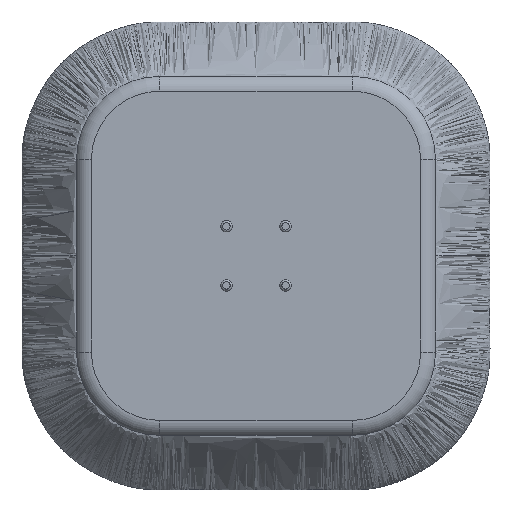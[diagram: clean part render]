
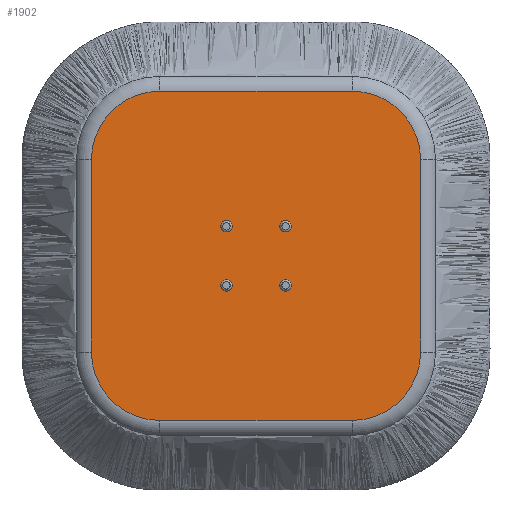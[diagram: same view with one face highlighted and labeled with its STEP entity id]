
A CAD part, top view. The second image highlights one B-rep face of the part: STEP entity #1902.
In plain terms, the highlighted planar face has unit normal (0, 0, 1).
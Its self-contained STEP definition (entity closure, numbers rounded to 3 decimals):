
#124=PLANE('',#2203);
#281=FACE_OUTER_BOUND('',#412,.T.);
#412=EDGE_LOOP('',(#1680,#1681,#1682,#1683,#1684,#1685,#1686,#1687));
#517=CIRCLE('',#2204,47.457);
#518=CIRCLE('',#2205,47.457);
#519=CIRCLE('',#2206,47.457);
#520=CIRCLE('',#2207,47.457);
#667=LINE('',#21957,#800);
#668=LINE('',#21961,#801);
#669=LINE('',#21965,#802);
#670=LINE('',#21968,#803);
#800=VECTOR('',#2730,1000.);
#801=VECTOR('',#2733,1000.);
#802=VECTOR('',#2736,1000.);
#803=VECTOR('',#2739,1000.);
#962=VERTEX_POINT('',#21953);
#963=VERTEX_POINT('',#21954);
#964=VERTEX_POINT('',#21956);
#965=VERTEX_POINT('',#21958);
#966=VERTEX_POINT('',#21960);
#967=VERTEX_POINT('',#21962);
#968=VERTEX_POINT('',#21964);
#969=VERTEX_POINT('',#21966);
#1207=EDGE_CURVE('',#962,#963,#517,.T.);
#1208=EDGE_CURVE('',#963,#964,#667,.T.);
#1209=EDGE_CURVE('',#964,#965,#518,.T.);
#1210=EDGE_CURVE('',#965,#966,#668,.T.);
#1211=EDGE_CURVE('',#966,#967,#519,.T.);
#1212=EDGE_CURVE('',#967,#968,#669,.T.);
#1213=EDGE_CURVE('',#968,#969,#520,.T.);
#1214=EDGE_CURVE('',#969,#962,#670,.T.);
#1680=ORIENTED_EDGE('',*,*,#1207,.T.);
#1681=ORIENTED_EDGE('',*,*,#1208,.T.);
#1682=ORIENTED_EDGE('',*,*,#1209,.T.);
#1683=ORIENTED_EDGE('',*,*,#1210,.T.);
#1684=ORIENTED_EDGE('',*,*,#1211,.T.);
#1685=ORIENTED_EDGE('',*,*,#1212,.T.);
#1686=ORIENTED_EDGE('',*,*,#1213,.T.);
#1687=ORIENTED_EDGE('',*,*,#1214,.T.);
#1902=ADVANCED_FACE('',(#281),#124,.F.);
#2203=AXIS2_PLACEMENT_3D('',#21952,#2726,#2727);
#2204=AXIS2_PLACEMENT_3D('',#21955,#2728,#2729);
#2205=AXIS2_PLACEMENT_3D('',#21959,#2731,#2732);
#2206=AXIS2_PLACEMENT_3D('',#21963,#2734,#2735);
#2207=AXIS2_PLACEMENT_3D('',#21967,#2737,#2738);
#2726=DIRECTION('center_axis',(0.,0.,-1.));
#2727=DIRECTION('ref_axis',(-1.,0.,0.));
#2728=DIRECTION('center_axis',(0.,0.,1.));
#2729=DIRECTION('ref_axis',(-1.,0.,0.));
#2730=DIRECTION('',(0.,-1.,0.));
#2731=DIRECTION('center_axis',(0.,0.,1.));
#2732=DIRECTION('ref_axis',(-1.,0.,0.));
#2733=DIRECTION('',(1.,0.,0.));
#2734=DIRECTION('center_axis',(0.,0.,1.));
#2735=DIRECTION('ref_axis',(-1.,0.,0.));
#2736=DIRECTION('',(0.,1.,0.));
#2737=DIRECTION('center_axis',(0.,0.,1.));
#2738=DIRECTION('ref_axis',(-1.,0.,0.));
#2739=DIRECTION('',(-1.,0.,0.));
#21952=CARTESIAN_POINT('Origin',(0.,0.,6.5));
#21953=CARTESIAN_POINT('',(-66.7,114.157,6.5));
#21954=CARTESIAN_POINT('',(-114.157,66.7,6.5));
#21955=CARTESIAN_POINT('Origin',(-66.7,66.7,6.5));
#21956=CARTESIAN_POINT('',(-114.157,-66.7,6.5));
#21957=CARTESIAN_POINT('',(-114.157,0.,6.5));
#21958=CARTESIAN_POINT('',(-66.7,-114.157,6.5));
#21959=CARTESIAN_POINT('Origin',(-66.7,-66.7,6.5));
#21960=CARTESIAN_POINT('',(66.7,-114.157,6.5));
#21961=CARTESIAN_POINT('',(0.,-114.157,6.5));
#21962=CARTESIAN_POINT('',(114.157,-66.7,6.5));
#21963=CARTESIAN_POINT('Origin',(66.7,-66.7,6.5));
#21964=CARTESIAN_POINT('',(114.157,66.7,6.5));
#21965=CARTESIAN_POINT('',(114.157,0.,6.5));
#21966=CARTESIAN_POINT('',(66.7,114.157,6.5));
#21967=CARTESIAN_POINT('Origin',(66.7,66.7,6.5));
#21968=CARTESIAN_POINT('',(0.,114.157,6.5));
